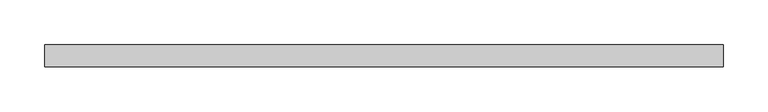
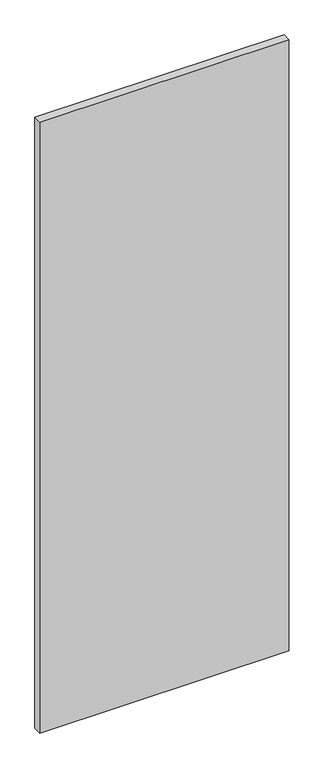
"""IFC4 building model written with IfcOpenShell, lengths in millimetres: plate geometry, 系统嵌板 : 玻璃."""

from ifc_helpers import new_model, si_unit, origin, origin_with_axes, place, context, project, spatial, polyline, outline, extrude, source, transform, mapped, element, save


def plate_c03f1867(model_context):
    return source(origin(), model_context, "Body", "SweptSolid", [
        extrude(outline(polyline([(380.0, -12.5), (-380.0, -12.5), (-380.0, 12.5), (380.0, 12.5), (380.0, -12.5)])), origin_with_axes(), (0.0, 0.0, 1.0), 1970.0),
    ])


if __name__ == "__main__":
    model = new_model("IFC4")
    model_context = context("Model", 3, world=origin())
    ifc_project = project(units=[si_unit("LENGTHUNIT", "METRE", prefix="MILLI")], contexts=[model_context])
    site = spatial("IfcSite", under=ifc_project)
    building = spatial("IfcBuilding", under=site)
    placement = place(None, origin())
    plate_shape = plate_c03f1867(model_context)
    element("IfcPlate", 1, ObjectType="系统嵌板 : 玻璃", at=placement, inside=building, context=model_context, shape_type="MappedRepresentation", body=[
        mapped(plate_shape, transform((0.0, 0.0, 0.0), x_axis=(1.0, 0.0, 0.0), y_axis=(0.0, 1.0, 0.0), z_axis=(0.0, 0.0, 1.0))),
    ])
    save(model, "model.ifc")
